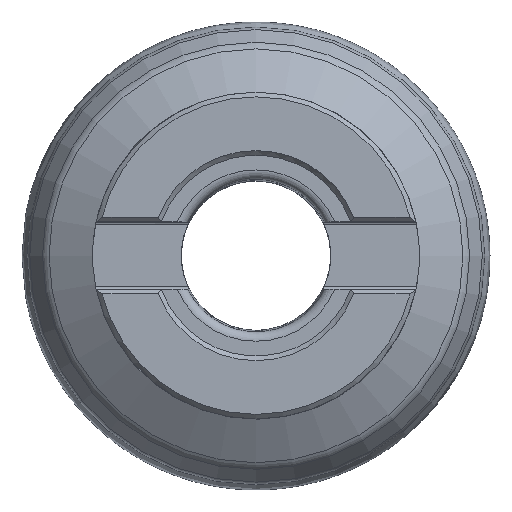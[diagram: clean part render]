
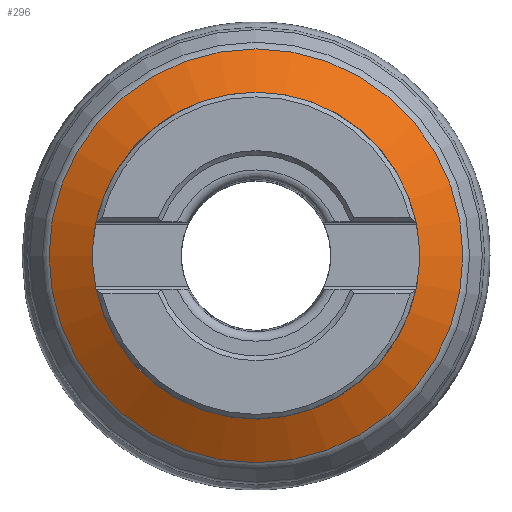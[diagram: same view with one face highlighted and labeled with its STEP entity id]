
A CAD part, top view. The second image highlights one B-rep face of the part: STEP entity #296.
In plain terms, the highlighted conical face has half-angle 59.146 degrees and reference radius 34 mm.
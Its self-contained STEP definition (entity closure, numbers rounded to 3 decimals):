
#165=CONICAL_SURFACE('',#937,34.,59.146);
#296=ADVANCED_FACE('',(#371,#372),#165,.T.);
#371=FACE_BOUND('',#437,.T.);
#372=FACE_BOUND('',#438,.T.);
#437=EDGE_LOOP('',(#546));
#438=EDGE_LOOP('',(#547));
#546=ORIENTED_EDGE('',*,*,#798,.T.);
#547=ORIENTED_EDGE('',*,*,#799,.T.);
#724=VERTEX_POINT('',#1399);
#725=VERTEX_POINT('',#1401);
#798=EDGE_CURVE('',#724,#724,#876,.T.);
#799=EDGE_CURVE('',#725,#725,#877,.T.);
#876=CIRCLE('',#935,34.974);
#877=CIRCLE('',#936,44.323);
#935=AXIS2_PLACEMENT_3D('',#1398,#1081,#1082);
#936=AXIS2_PLACEMENT_3D('',#1400,#1083,#1084);
#937=AXIS2_PLACEMENT_3D('',#1402,#1085,#1086);
#1081=DIRECTION('',(0.,0.,-1.));
#1082=DIRECTION('',(0.,-1.,0.));
#1083=DIRECTION('',(0.,0.,1.));
#1084=DIRECTION('',(0.,1.,0.));
#1085=DIRECTION('',(0.,0.,-1.));
#1086=DIRECTION('',(0.,1.,0.));
#1398=CARTESIAN_POINT('',(0.,0.,-18.582));
#1399=CARTESIAN_POINT('',(0.,-34.974,-18.582));
#1400=CARTESIAN_POINT('',(0.,0.,-24.167));
#1401=CARTESIAN_POINT('',(0.,44.323,-24.167));
#1402=CARTESIAN_POINT('',(0.,0.,-18.));
